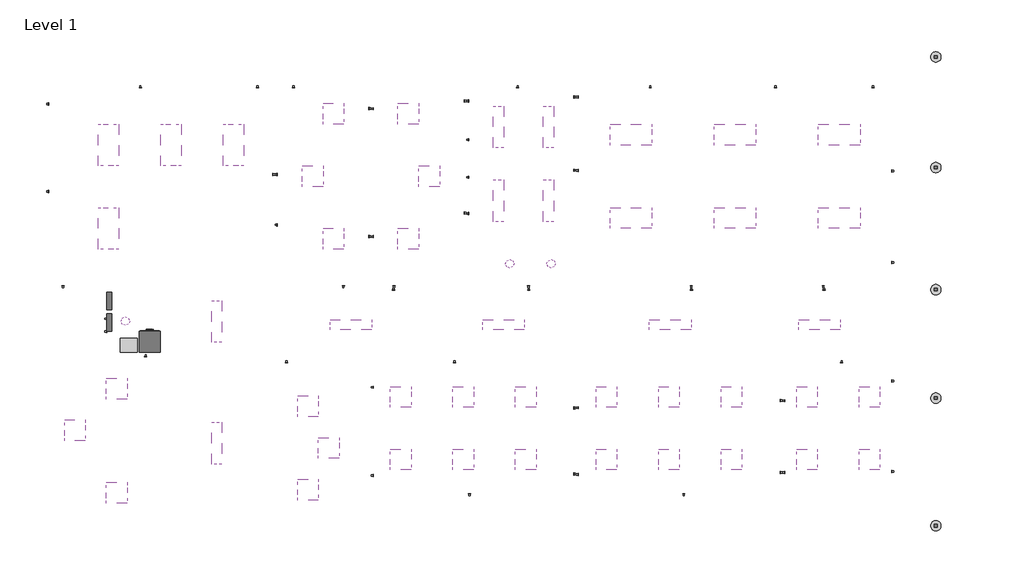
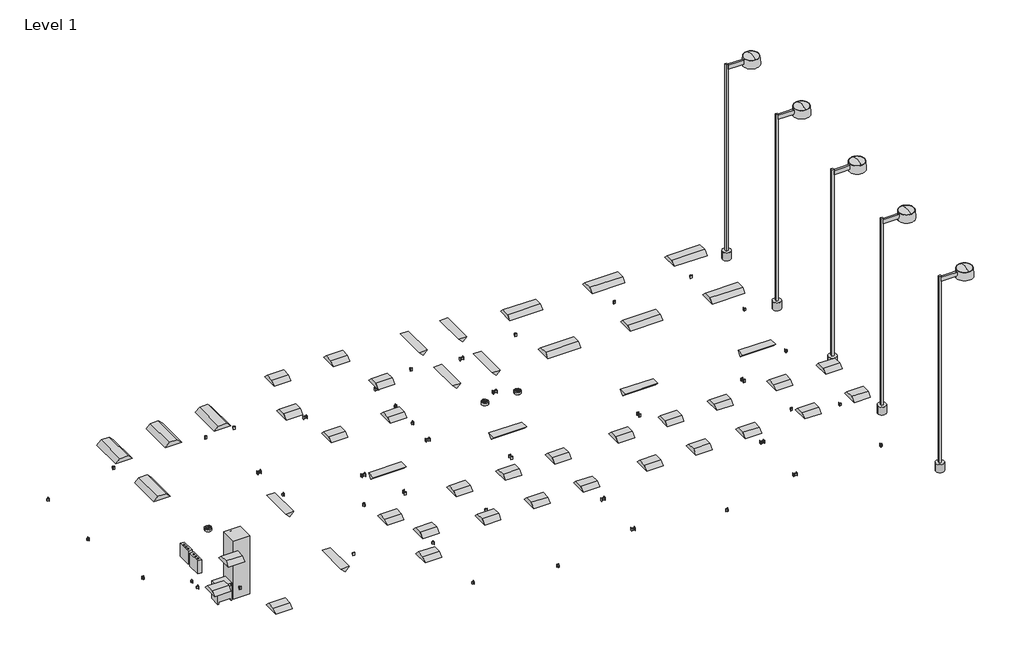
# One storey: 62 proxies, 56 light fixtures.
"""IFC4 building model written with IfcOpenShell, lengths in millimetres."""

from ifc_helpers import new_model, si_unit, origin, place, context, project, spatial, transform, mapped, element, save
from components import proxy_15_kva_b0f935c8, duplex_receptacle_standard_10251bba, lighting_and_appliance_panelboard_208v_100_a_7126e705, proxy_f2fcea41, ceiling_light_flat_round_60w_120v_a3c1fe64, plain_recessed_lighting_fixture_1x4_120_73690371, plain_recessed_lighting_fixture_2x2_120_2107ce2d, plain_recessed_lighting_fixture_2x4_120_d3d5fc87, street_light_standard_400w_halogen_120v_63d2c179

model = new_model("IFC4")

# Units and contexts
model_context = context("Model", 3, world=origin())
ifc_project = project(units=[si_unit("LENGTHUNIT", "METRE", prefix="MILLI")], contexts=[model_context])

# Site, building, storey
site = spatial("IfcSite", under=ifc_project)
building = spatial("IfcBuilding", under=site)
storey = spatial("IfcBuildingStorey", under=building, Name="Level 1", Elevation=0.0)

# Proxies
placement = place(None, origin())
proxy_15_kva_shape = proxy_15_kva_b0f935c8(model_context)
element("IfcBuildingElementProxy", 1, Name="Dry Type Transformer - 480-208Y120 - NEMA Type 2 : 15 kVA", ObjectType="Dry Type Transformer - 480-208Y120 - NEMA Type 2 : 15 kVA", at=placement, inside=storey, context=model_context, shape_type="MappedRepresentation", body=[
    mapped(proxy_15_kva_shape, transform((-9977.4200118, -1021.8173203, 0.0), x_axis=(-1.0, 0.0, 0.0), y_axis=(0.0, -1.0, 0.0), z_axis=(0.0, 0.0, 1.0))),
])
duplex_receptacle_standard_shape = duplex_receptacle_standard_10251bba(model_context)
element("IfcBuildingElementProxy", 2, Name="Duplex Receptacle : Standard", ObjectType="Duplex Receptacle : Standard", at=placement, inside=storey, context=model_context, shape_type="MappedRepresentation", body=[
    mapped(duplex_receptacle_standard_shape, transform((-35.6380103, 2648.1174507, 457.2), x_axis=(0.0, 1.0, 0.0), y_axis=(0.0, 0.0, 1.0), z_axis=(1.0, 0.0, 0.0))),
])
element("IfcBuildingElementProxy", 3, Name="Duplex Receptacle : Standard", ObjectType="Duplex Receptacle : Standard", at=placement, inside=storey, context=model_context, shape_type="MappedRepresentation", body=[
    mapped(duplex_receptacle_standard_shape, transform((-35.6380103, 3713.8918475, 457.2), x_axis=(0.0, 1.0, 0.0), y_axis=(0.0, 0.0, 1.0), z_axis=(1.0, 0.0, 0.0))),
])
element("IfcBuildingElementProxy", 4, Name="Duplex Receptacle : Standard", ObjectType="Duplex Receptacle : Standard", at=placement, inside=storey, context=model_context, shape_type="MappedRepresentation", body=[
    mapped(duplex_receptacle_standard_shape, transform((-35.6380103, 4811.7196097, 457.2), x_axis=(0.0, 1.0, 0.0), y_axis=(0.0, 0.0, 1.0), z_axis=(1.0, 0.0, 0.0))),
])
element("IfcBuildingElementProxy", 5, Name="Duplex Receptacle : Standard", ObjectType="Duplex Receptacle : Standard", at=placement, inside=storey, context=model_context, shape_type="MappedRepresentation", body=[
    mapped(duplex_receptacle_standard_shape, transform((-35.6380103, 5949.6140785, 457.2), x_axis=(0.0, 1.0, 0.0), y_axis=(0.0, 0.0, 1.0), z_axis=(1.0, 0.0, 0.0))),
])
element("IfcBuildingElementProxy", 6, Name="Duplex Receptacle : Standard", ObjectType="Duplex Receptacle : Standard", at=placement, inside=storey, context=model_context, shape_type="MappedRepresentation", body=[
    mapped(duplex_receptacle_standard_shape, transform((3054.9541807, 6058.3078836, 457.2), x_axis=(0.0, -1.0, 0.0), y_axis=(0.0, 0.0, 1.0), z_axis=(-1.0, 0.0, 0.0))),
])
element("IfcBuildingElementProxy", 7, Name="Duplex Receptacle : Standard", ObjectType="Duplex Receptacle : Standard", at=placement, inside=storey, context=model_context, shape_type="MappedRepresentation", body=[
    mapped(duplex_receptacle_standard_shape, transform((3054.9541807, 3918.7457486, 457.2), x_axis=(0.0, -1.0, 0.0), y_axis=(0.0, 0.0, 1.0), z_axis=(-1.0, 0.0, 0.0))),
])
element("IfcBuildingElementProxy", 8, Name="Duplex Receptacle : Standard", ObjectType="Duplex Receptacle : Standard", at=placement, inside=storey, context=model_context, shape_type="MappedRepresentation", body=[
    mapped(duplex_receptacle_standard_shape, transform((1404.1361978, 6330.7167452, 457.2), x_axis=(1.0, 0.0, 0.0), y_axis=(0.0, 0.0, 1.0), z_axis=(0.0, -1.0, 0.0))),
])
element("IfcBuildingElementProxy", 9, Name="Duplex Receptacle : Standard", ObjectType="Duplex Receptacle : Standard", at=placement, inside=storey, context=model_context, shape_type="MappedRepresentation", body=[
    mapped(duplex_receptacle_standard_shape, transform((-11896.9375423, 539.3362982, 457.2), x_axis=(-1.0, 0.0, 0.0), y_axis=(0.0, 0.0, 1.0), z_axis=(0.0, 1.0, 0.0))),
])
element("IfcBuildingElementProxy", 10, Name="Duplex Receptacle : Standard", ObjectType="Duplex Receptacle : Standard", at=placement, inside=storey, context=model_context, shape_type="MappedRepresentation", body=[
    mapped(duplex_receptacle_standard_shape, transform((-12326.8965226, 3293.728876, 457.2), x_axis=(0.0, 1.0, 0.0), y_axis=(0.0, 0.0, 1.0), z_axis=(1.0, 0.0, 0.0))),
])
element("IfcBuildingElementProxy", 11, Name="Duplex Receptacle : Standard", ObjectType="Duplex Receptacle : Standard", at=placement, inside=storey, context=model_context, shape_type="MappedRepresentation", body=[
    mapped(duplex_receptacle_standard_shape, transform((-12326.8965226, 5855.4034771, 457.2), x_axis=(0.0, 1.0, 0.0), y_axis=(0.0, 0.0, 1.0), z_axis=(1.0, 0.0, 0.0))),
])
element("IfcBuildingElementProxy", 12, Name="Duplex Receptacle : Standard", ObjectType="Duplex Receptacle : Standard", at=placement, inside=storey, context=model_context, shape_type="MappedRepresentation", body=[
    mapped(duplex_receptacle_standard_shape, transform((-9637.0519321, 6330.7167452, 457.2), x_axis=(1.0, 0.0, 0.0), y_axis=(0.0, 0.0, 1.0), z_axis=(0.0, -1.0, 0.0))),
])
element("IfcBuildingElementProxy", 13, Name="Duplex Receptacle : Standard", ObjectType="Duplex Receptacle : Standard", at=placement, inside=storey, context=model_context, shape_type="MappedRepresentation", body=[
    mapped(duplex_receptacle_standard_shape, transform((-6212.0214597, 6330.7167452, 457.2), x_axis=(1.0, 0.0, 0.0), y_axis=(0.0, 0.0, 1.0), z_axis=(0.0, -1.0, 0.0))),
])
element("IfcBuildingElementProxy", 14, Name="Duplex Receptacle : Standard", ObjectType="Duplex Receptacle : Standard", at=placement, inside=storey, context=model_context, shape_type="MappedRepresentation", body=[
    mapped(duplex_receptacle_standard_shape, transform((-5761.7329716, 3793.1487614, 457.2), x_axis=(0.0, -1.0, 0.0), y_axis=(0.0, 0.0, 1.0), z_axis=(-1.0, 0.0, 0.0))),
])
element("IfcBuildingElementProxy", 15, Name="Duplex Receptacle : Standard", ObjectType="Duplex Receptacle : Standard", at=placement, inside=storey, context=model_context, shape_type="MappedRepresentation", body=[
    mapped(duplex_receptacle_standard_shape, transform((-3696.8781677, 539.3362982, 457.2), x_axis=(-1.0, 0.0, 0.0), y_axis=(0.0, 0.0, 1.0), z_axis=(0.0, 1.0, 0.0))),
])
element("IfcBuildingElementProxy", 16, Name="Duplex Receptacle : Standard", ObjectType="Duplex Receptacle : Standard", at=placement, inside=storey, context=model_context, shape_type="MappedRepresentation", body=[
    mapped(duplex_receptacle_standard_shape, transform((-2943.0314516, 1977.435622, 457.2), x_axis=(0.0, -1.0, 0.0), y_axis=(0.0, 0.0, 1.0), z_axis=(-1.0, 0.0, 0.0))),
])
element("IfcBuildingElementProxy", 17, Name="Duplex Receptacle : Standard", ObjectType="Duplex Receptacle : Standard", at=placement, inside=storey, context=model_context, shape_type="MappedRepresentation", body=[
    mapped(duplex_receptacle_standard_shape, transform((-2943.0314516, 5727.6793643, 457.2), x_axis=(0.0, -1.0, 0.0), y_axis=(0.0, 0.0, 1.0), z_axis=(-1.0, 0.0, 0.0))),
])
element("IfcBuildingElementProxy", 18, Name="Duplex Receptacle : Standard", ObjectType="Duplex Receptacle : Standard", at=placement, inside=storey, context=model_context, shape_type="MappedRepresentation", body=[
    mapped(duplex_receptacle_standard_shape, transform((-5155.3062897, 6330.7167452, 457.2), x_axis=(1.0, 0.0, 0.0), y_axis=(0.0, 0.0, 1.0), z_axis=(0.0, -1.0, 0.0))),
])
element("IfcBuildingElementProxy", 19, Name="Duplex Receptacle : Standard", ObjectType="Duplex Receptacle : Standard", at=placement, inside=storey, context=model_context, shape_type="MappedRepresentation", body=[
    mapped(duplex_receptacle_standard_shape, transform((-5637.9079716, 3796.4641038, 457.2), x_axis=(0.0, 1.0, 0.0), y_axis=(0.0, 0.0, 1.0), z_axis=(1.0, 0.0, 0.0))),
])
element("IfcBuildingElementProxy", 20, Name="Duplex Receptacle : Standard", ObjectType="Duplex Receptacle : Standard", at=placement, inside=storey, context=model_context, shape_type="MappedRepresentation", body=[
    mapped(duplex_receptacle_standard_shape, transform((-5637.9079716, 2322.0092992, 457.2), x_axis=(0.0, 1.0, 0.0), y_axis=(0.0, 0.0, 1.0), z_axis=(1.0, 0.0, 0.0))),
])
element("IfcBuildingElementProxy", 21, Name="Duplex Receptacle : Standard", ObjectType="Duplex Receptacle : Standard", at=placement, inside=storey, context=model_context, shape_type="MappedRepresentation", body=[
    mapped(duplex_receptacle_standard_shape, transform((-2819.2064516, 5717.2271799, 457.2), x_axis=(0.0, 1.0, 0.0), y_axis=(0.0, 0.0, 1.0), z_axis=(1.0, 0.0, 0.0))),
])
element("IfcBuildingElementProxy", 22, Name="Duplex Receptacle : Standard", ObjectType="Duplex Receptacle : Standard", at=placement, inside=storey, context=model_context, shape_type="MappedRepresentation", body=[
    mapped(duplex_receptacle_standard_shape, transform((-2819.2064516, 1974.996779, 457.2), x_axis=(0.0, 1.0, 0.0), y_axis=(0.0, 0.0, 1.0), z_axis=(1.0, 0.0, 0.0))),
])
element("IfcBuildingElementProxy", 23, Name="Duplex Receptacle : Standard", ObjectType="Duplex Receptacle : Standard", at=placement, inside=storey, context=model_context, shape_type="MappedRepresentation", body=[
    mapped(duplex_receptacle_standard_shape, transform((-2217.8940832, 539.3362982, 457.2), x_axis=(-1.0, 0.0, 0.0), y_axis=(0.0, 0.0, 1.0), z_axis=(0.0, 1.0, 0.0))),
])
element("IfcBuildingElementProxy", 24, Name="Duplex Receptacle : Standard", ObjectType="Duplex Receptacle : Standard", at=placement, inside=storey, context=model_context, shape_type="MappedRepresentation", body=[
    mapped(duplex_receptacle_standard_shape, transform((-159.4630103, 5949.6140785, 457.2), x_axis=(0.0, -1.0, 0.0), y_axis=(0.0, 0.0, 1.0), z_axis=(-1.0, 0.0, 0.0))),
])
element("IfcBuildingElementProxy", 25, Name="Duplex Receptacle : Standard", ObjectType="Duplex Receptacle : Standard", at=placement, inside=storey, context=model_context, shape_type="MappedRepresentation", body=[
    mapped(duplex_receptacle_standard_shape, transform((-159.4630103, 2664.1441333, 457.2), x_axis=(0.0, -1.0, 0.0), y_axis=(0.0, 0.0, 1.0), z_axis=(-1.0, 0.0, 0.0))),
])
element("IfcBuildingElementProxy", 26, Name="Duplex Receptacle : Standard", ObjectType="Duplex Receptacle : Standard", at=placement, inside=storey, context=model_context, shape_type="MappedRepresentation", body=[
    mapped(duplex_receptacle_standard_shape, transform((3178.7791807, 3910.7324072, 457.2), x_axis=(0.0, 1.0, 0.0), y_axis=(0.0, 0.0, 1.0), z_axis=(1.0, 0.0, 0.0))),
])
element("IfcBuildingElementProxy", 27, Name="Duplex Receptacle : Standard", ObjectType="Duplex Receptacle : Standard", at=placement, inside=storey, context=model_context, shape_type="MappedRepresentation", body=[
    mapped(duplex_receptacle_standard_shape, transform((3178.7791807, 6058.3078836, 457.2), x_axis=(0.0, 1.0, 0.0), y_axis=(0.0, 0.0, 1.0), z_axis=(1.0, 0.0, 0.0))),
])
element("IfcBuildingElementProxy", 28, Name="Duplex Receptacle : Standard", ObjectType="Duplex Receptacle : Standard", at=placement, inside=storey, context=model_context, shape_type="MappedRepresentation", body=[
    mapped(duplex_receptacle_standard_shape, transform((5282.5934014, 6330.7167452, 457.2), x_axis=(1.0, 0.0, 0.0), y_axis=(0.0, 0.0, 1.0), z_axis=(0.0, -1.0, 0.0))),
])
element("IfcBuildingElementProxy", 29, Name="Duplex Receptacle : Standard", ObjectType="Duplex Receptacle : Standard", at=placement, inside=storey, context=model_context, shape_type="MappedRepresentation", body=[
    mapped(duplex_receptacle_standard_shape, transform((8952.7037304, 6330.7167452, 457.2), x_axis=(1.0, 0.0, 0.0), y_axis=(0.0, 0.0, 1.0), z_axis=(0.0, -1.0, 0.0))),
])
element("IfcBuildingElementProxy", 30, Name="Duplex Receptacle : Standard", ObjectType="Duplex Receptacle : Standard", at=placement, inside=storey, context=model_context, shape_type="MappedRepresentation", body=[
    mapped(duplex_receptacle_standard_shape, transform((11805.4532437, 6330.7167452, 457.2), x_axis=(1.0, 0.0, 0.0), y_axis=(0.0, 0.0, 1.0), z_axis=(0.0, -1.0, 0.0))),
])
element("IfcBuildingElementProxy", 31, Name="Duplex Receptacle : Standard", ObjectType="Duplex Receptacle : Standard", at=placement, inside=storey, context=model_context, shape_type="MappedRepresentation", body=[
    mapped(duplex_receptacle_standard_shape, transform((12355.5534774, 3898.1986981, 457.2), x_axis=(0.0, -1.0, 0.0), y_axis=(0.0, 0.0, 1.0), z_axis=(-1.0, 0.0, 0.0))),
])
element("IfcBuildingElementProxy", 32, Name="Duplex Receptacle : Standard", ObjectType="Duplex Receptacle : Standard", at=placement, inside=storey, context=model_context, shape_type="MappedRepresentation", body=[
    mapped(duplex_receptacle_standard_shape, transform((12355.5534774, 1221.742694, 457.2), x_axis=(0.0, -1.0, 0.0), y_axis=(0.0, 0.0, 1.0), z_axis=(-1.0, 0.0, 0.0))),
])
element("IfcBuildingElementProxy", 33, Name="Duplex Receptacle : Standard", ObjectType="Duplex Receptacle : Standard", at=placement, inside=storey, context=model_context, shape_type="MappedRepresentation", body=[
    mapped(duplex_receptacle_standard_shape, transform((10347.0251217, 539.3362982, 457.2), x_axis=(-1.0, 0.0, 0.0), y_axis=(0.0, 0.0, 1.0), z_axis=(0.0, 1.0, 0.0))),
])
element("IfcBuildingElementProxy", 34, Name="Duplex Receptacle : Standard", ObjectType="Duplex Receptacle : Standard", at=placement, inside=storey, context=model_context, shape_type="MappedRepresentation", body=[
    mapped(duplex_receptacle_standard_shape, transform((6484.5946008, 539.3362982, 457.2), x_axis=(-1.0, 0.0, 0.0), y_axis=(0.0, 0.0, 1.0), z_axis=(0.0, 1.0, 0.0))),
])
element("IfcBuildingElementProxy", 35, Name="Duplex Receptacle : Standard", ObjectType="Duplex Receptacle : Standard", at=placement, inside=storey, context=model_context, shape_type="MappedRepresentation", body=[
    mapped(duplex_receptacle_standard_shape, transform((10364.3439331, 415.5112982, 457.2), x_axis=(1.0, 0.0, 0.0), y_axis=(0.0, 0.0, 1.0), z_axis=(0.0, -1.0, 0.0))),
])
element("IfcBuildingElementProxy", 36, Name="Duplex Receptacle : Standard", ObjectType="Duplex Receptacle : Standard", at=placement, inside=storey, context=model_context, shape_type="MappedRepresentation", body=[
    mapped(duplex_receptacle_standard_shape, transform((6485.6062626, 415.5112982, 457.2), x_axis=(1.0, 0.0, 0.0), y_axis=(0.0, 0.0, 1.0), z_axis=(0.0, -1.0, 0.0))),
])
element("IfcBuildingElementProxy", 37, Name="Duplex Receptacle : Standard", ObjectType="Duplex Receptacle : Standard", at=placement, inside=storey, context=model_context, shape_type="MappedRepresentation", body=[
    mapped(duplex_receptacle_standard_shape, transform((1727.2641477, 415.5112982, 457.2), x_axis=(1.0, 0.0, 0.0), y_axis=(0.0, 0.0, 1.0), z_axis=(0.0, -1.0, 0.0))),
])
element("IfcBuildingElementProxy", 38, Name="Duplex Receptacle : Standard", ObjectType="Duplex Receptacle : Standard", at=placement, inside=storey, context=model_context, shape_type="MappedRepresentation", body=[
    mapped(duplex_receptacle_standard_shape, transform((1724.669851, 539.3362982, 457.2), x_axis=(-1.0, 0.0, 0.0), y_axis=(0.0, 0.0, 1.0), z_axis=(0.0, 1.0, 0.0))),
])
element("IfcBuildingElementProxy", 39, Name="Duplex Receptacle : Standard", ObjectType="Duplex Receptacle : Standard", at=placement, inside=storey, context=model_context, shape_type="MappedRepresentation", body=[
    mapped(duplex_receptacle_standard_shape, transform((-2225.6570301, 415.5112982, 457.2), x_axis=(1.0, 0.0, 0.0), y_axis=(0.0, 0.0, 1.0), z_axis=(0.0, -1.0, 0.0))),
])
element("IfcBuildingElementProxy", 40, Name="Duplex Receptacle : Standard", ObjectType="Duplex Receptacle : Standard", at=placement, inside=storey, context=model_context, shape_type="MappedRepresentation", body=[
    mapped(duplex_receptacle_standard_shape, transform((10884.0330798, -1710.3119449, 457.2), x_axis=(1.0, 0.0, 0.0), y_axis=(0.0, 0.0, 1.0), z_axis=(0.0, -1.0, 0.0))),
])
element("IfcBuildingElementProxy", 41, Name="Duplex Receptacle : Standard", ObjectType="Duplex Receptacle : Standard", at=placement, inside=storey, context=model_context, shape_type="MappedRepresentation", body=[
    mapped(duplex_receptacle_standard_shape, transform((12355.5534774, -2243.543179, 457.2), x_axis=(0.0, -1.0, 0.0), y_axis=(0.0, 0.0, 1.0), z_axis=(-1.0, 0.0, 0.0))),
])
element("IfcBuildingElementProxy", 42, Name="Duplex Receptacle : Standard", ObjectType="Duplex Receptacle : Standard", at=placement, inside=storey, context=model_context, shape_type="MappedRepresentation", body=[
    mapped(duplex_receptacle_standard_shape, transform((12355.5534774, -4891.4298793, 457.2), x_axis=(0.0, -1.0, 0.0), y_axis=(0.0, 0.0, 1.0), z_axis=(-1.0, 0.0, 0.0))),
])
element("IfcBuildingElementProxy", 43, Name="Duplex Receptacle : Standard", ObjectType="Duplex Receptacle : Standard", at=placement, inside=storey, context=model_context, shape_type="MappedRepresentation", body=[
    mapped(duplex_receptacle_standard_shape, transform((9215.7608002, -4927.7853031, 457.2), x_axis=(0.0, 1.0, 0.0), y_axis=(0.0, 0.0, 1.0), z_axis=(1.0, 0.0, 0.0))),
])
element("IfcBuildingElementProxy", 44, Name="Duplex Receptacle : Standard", ObjectType="Duplex Receptacle : Standard", at=placement, inside=storey, context=model_context, shape_type="MappedRepresentation", body=[
    mapped(duplex_receptacle_standard_shape, transform((9215.7608002, -2825.2299599, 457.2), x_axis=(0.0, 1.0, 0.0), y_axis=(0.0, 0.0, 1.0), z_axis=(1.0, 0.0, 0.0))),
])
element("IfcBuildingElementProxy", 45, Name="Duplex Receptacle : Standard", ObjectType="Duplex Receptacle : Standard", at=placement, inside=storey, context=model_context, shape_type="MappedRepresentation", body=[
    mapped(duplex_receptacle_standard_shape, transform((9091.9358002, -2822.2003412, 457.2), x_axis=(0.0, -1.0, 0.0), y_axis=(0.0, 0.0, 1.0), z_axis=(-1.0, 0.0, 0.0))),
])
element("IfcBuildingElementProxy", 46, Name="Duplex Receptacle : Standard", ObjectType="Duplex Receptacle : Standard", at=placement, inside=storey, context=model_context, shape_type="MappedRepresentation", body=[
    mapped(duplex_receptacle_standard_shape, transform((9091.9358002, -4926.5734556, 457.2), x_axis=(0.0, -1.0, 0.0), y_axis=(0.0, 0.0, 1.0), z_axis=(-1.0, 0.0, 0.0))),
])
element("IfcBuildingElementProxy", 47, Name="Duplex Receptacle : Standard", ObjectType="Duplex Receptacle : Standard", at=placement, inside=storey, context=model_context, shape_type="MappedRepresentation", body=[
    mapped(duplex_receptacle_standard_shape, transform((6264.7735239, -5550.1332548, 457.2), x_axis=(-1.0, 0.0, 0.0), y_axis=(0.0, 0.0, 1.0), z_axis=(0.0, 1.0, 0.0))),
])
element("IfcBuildingElementProxy", 48, Name="Duplex Receptacle : Standard", ObjectType="Duplex Receptacle : Standard", at=placement, inside=storey, context=model_context, shape_type="MappedRepresentation", body=[
    mapped(duplex_receptacle_standard_shape, transform((3178.7791807, -4982.3184388, 457.2), x_axis=(0.0, 1.0, 0.0), y_axis=(0.0, 0.0, 1.0), z_axis=(1.0, 0.0, 0.0))),
])
element("IfcBuildingElementProxy", 49, Name="Duplex Receptacle : Standard", ObjectType="Duplex Receptacle : Standard", at=placement, inside=storey, context=model_context, shape_type="MappedRepresentation", body=[
    mapped(duplex_receptacle_standard_shape, transform((3178.7791807, -3031.2440281, 457.2), x_axis=(0.0, 1.0, 0.0), y_axis=(0.0, 0.0, 1.0), z_axis=(1.0, 0.0, 0.0))),
])
element("IfcBuildingElementProxy", 50, Name="Duplex Receptacle : Standard", ObjectType="Duplex Receptacle : Standard", at=placement, inside=storey, context=model_context, shape_type="MappedRepresentation", body=[
    mapped(duplex_receptacle_standard_shape, transform((3054.9541807, -3040.6605751, 457.2), x_axis=(0.0, -1.0, 0.0), y_axis=(0.0, 0.0, 1.0), z_axis=(-1.0, 0.0, 0.0))),
])
element("IfcBuildingElementProxy", 51, Name="Duplex Receptacle : Standard", ObjectType="Duplex Receptacle : Standard", at=placement, inside=storey, context=model_context, shape_type="MappedRepresentation", body=[
    mapped(duplex_receptacle_standard_shape, transform((3054.9541807, -4971.8758356, 457.2), x_axis=(0.0, -1.0, 0.0), y_axis=(0.0, 0.0, 1.0), z_axis=(-1.0, 0.0, 0.0))),
])
element("IfcBuildingElementProxy", 52, Name="Duplex Receptacle : Standard", ObjectType="Duplex Receptacle : Standard", at=placement, inside=storey, context=model_context, shape_type="MappedRepresentation", body=[
    mapped(duplex_receptacle_standard_shape, transform((-2819.2064516, -5011.9425422, 457.2), x_axis=(0.0, 1.0, 0.0), y_axis=(0.0, 0.0, 1.0), z_axis=(1.0, 0.0, 0.0))),
])
element("IfcBuildingElementProxy", 53, Name="Duplex Receptacle : Standard", ObjectType="Duplex Receptacle : Standard", at=placement, inside=storey, context=model_context, shape_type="MappedRepresentation", body=[
    mapped(duplex_receptacle_standard_shape, transform((-2819.2064516, -2431.6466341, 457.2), x_axis=(0.0, 1.0, 0.0), y_axis=(0.0, 0.0, 1.0), z_axis=(1.0, 0.0, 0.0))),
])
element("IfcBuildingElementProxy", 54, Name="Duplex Receptacle : Standard", ObjectType="Duplex Receptacle : Standard", at=placement, inside=storey, context=model_context, shape_type="MappedRepresentation", body=[
    mapped(duplex_receptacle_standard_shape, transform((-443.3364786, -1710.3119449, 457.2), x_axis=(1.0, 0.0, 0.0), y_axis=(0.0, 0.0, 1.0), z_axis=(0.0, -1.0, 0.0))),
])
element("IfcBuildingElementProxy", 55, Name="Duplex Receptacle : Standard", ObjectType="Duplex Receptacle : Standard", at=placement, inside=storey, context=model_context, shape_type="MappedRepresentation", body=[
    mapped(duplex_receptacle_standard_shape, transform((-2.6027055, -5550.1332548, 457.2), x_axis=(-1.0, 0.0, 0.0), y_axis=(0.0, 0.0, 1.0), z_axis=(0.0, 1.0, 0.0))),
])
element("IfcBuildingElementProxy", 56, Name="Duplex Receptacle : Standard", ObjectType="Duplex Receptacle : Standard", at=placement, inside=storey, context=model_context, shape_type="MappedRepresentation", body=[
    mapped(duplex_receptacle_standard_shape, transform((-5361.484653, -1710.3119449, 457.2), x_axis=(1.0, 0.0, 0.0), y_axis=(0.0, 0.0, 1.0), z_axis=(0.0, -1.0, 0.0))),
])
element("IfcBuildingElementProxy", 57, Name="Duplex Receptacle : Standard", ObjectType="Duplex Receptacle : Standard", at=placement, inside=storey, context=model_context, shape_type="MappedRepresentation", body=[
    mapped(duplex_receptacle_standard_shape, transform((-9480.7427635, -1530.7127622, 457.2), x_axis=(1.0, 0.0, 0.0), y_axis=(0.0, 0.0, 1.0), z_axis=(0.0, -1.0, 0.0))),
])
element("IfcBuildingElementProxy", 58, Name="Duplex Receptacle : Standard", ObjectType="Duplex Receptacle : Standard", at=placement, inside=storey, context=model_context, shape_type="MappedRepresentation", body=[
    mapped(duplex_receptacle_standard_shape, transform((-10618.9849987, -802.683715, 457.2), x_axis=(0.0, 1.0, 0.0), y_axis=(0.0, 0.0, 1.0), z_axis=(1.0, 0.0, 0.0))),
])
element("IfcBuildingElementProxy", 59, Name="Duplex Receptacle : Standard", ObjectType="Duplex Receptacle : Standard", at=placement, inside=storey, context=model_context, shape_type="MappedRepresentation", body=[
    mapped(duplex_receptacle_standard_shape, transform((-10618.9849987, -428.1176265, 457.2), x_axis=(0.0, 1.0, 0.0), y_axis=(0.0, 0.0, 1.0), z_axis=(1.0, 0.0, 0.0))),
])
lighting_and_appliance_panelboard_208v_100_a_shape = lighting_and_appliance_panelboard_208v_100_a_7126e705(model_context)
element("IfcBuildingElementProxy", 60, Name="Lighting and Appliance Panelboard - 208V : 100 A", ObjectType="Lighting and Appliance Panelboard - 208V : 100 A", at=placement, inside=storey, context=model_context, shape_type="MappedRepresentation", body=[
    mapped(lighting_and_appliance_panelboard_208v_100_a_shape, transform((-10618.9849987, -535.3199563, 1219.2), x_axis=(0.0, 1.0, 0.0), y_axis=(0.0, 0.0, -1.0), z_axis=(-1.0, 0.0, 0.0))),
])
element("IfcBuildingElementProxy", 61, Name="Lighting and Appliance Panelboard - 208V : 100 A", ObjectType="Lighting and Appliance Panelboard - 208V : 100 A", at=placement, inside=storey, context=model_context, shape_type="MappedRepresentation", body=[
    mapped(lighting_and_appliance_panelboard_208v_100_a_shape, transform((-10618.9849987, 91.1493498, 1219.2), x_axis=(0.0, 1.0, 0.0), y_axis=(0.0, 0.0, -1.0), z_axis=(-1.0, 0.0, 0.0))),
])
proxy_shape = proxy_f2fcea41(model_context)
element("IfcBuildingElementProxy", 62, Name="Metering Switchboard : 24\"x26.25\"", ObjectType="Metering Switchboard : 24\"x26.25\"", at=placement, inside=storey, context=model_context, shape_type="MappedRepresentation", body=[
    mapped(proxy_shape, transform((-9356.388949, -1404.6099297, 0.0), x_axis=(-1.0, 0.0, 0.0), y_axis=(0.0, -1.0, 0.0), z_axis=(0.0, 0.0, 1.0))),
])

# Light fixtures
ceiling_light_flat_round_60w_120v_shape = ceiling_light_flat_round_60w_120v_a3c1fe64(model_context)
element("IfcLightFixture", 63, ObjectType="Ceiling Light - Flat Round : 60W - 120V", at=placement, inside=storey, context=model_context, shape_type="MappedRepresentation", body=[
    mapped(ceiling_light_flat_round_60w_120v_shape, transform((2383.8661295, 1183.5273163, 2438.4), x_axis=(1.0, 0.0, 0.0), y_axis=(0.0, -1.0, 0.0), z_axis=(0.0, 0.0, -1.0))),
])
element("IfcLightFixture", 64, ObjectType="Ceiling Light - Flat Round : 60W - 120V", at=placement, inside=storey, context=model_context, shape_type="MappedRepresentation", body=[
    mapped(ceiling_light_flat_round_60w_120v_shape, transform((1173.2843647, 1183.5273163, 2438.4), x_axis=(1.0, 0.0, 0.0), y_axis=(0.0, -1.0, 0.0), z_axis=(0.0, 0.0, -1.0))),
])
element("IfcLightFixture", 65, ObjectType="Ceiling Light - Flat Round : 60W - 120V", at=placement, inside=storey, context=model_context, shape_type="MappedRepresentation", body=[
    mapped(ceiling_light_flat_round_60w_120v_shape, transform((-10072.8185222, -495.688232, 2438.4), x_axis=(1.0, 0.0, 0.0), y_axis=(0.0, -1.0, 0.0), z_axis=(0.0, 0.0, -1.0))),
])
plain_recessed_lighting_fixture_1x4_120_shape = plain_recessed_lighting_fixture_1x4_120_73690371(model_context)
element("IfcLightFixture", 66, ObjectType="Plain Recessed Lighting Fixture : 1x4 - 120", at=placement, inside=storey, context=model_context, shape_type="MappedRepresentation", body=[
    mapped(plain_recessed_lighting_fixture_1x4_120_shape, transform((-4086.8396974, -448.5225822, 2438.4), x_axis=(1.0, 0.0, 0.0), y_axis=(0.0, 1.0, 0.0), z_axis=(0.0, 0.0, 1.0))),
])
element("IfcLightFixture", 67, ObjectType="Plain Recessed Lighting Fixture : 1x4 - 120", at=placement, inside=storey, context=model_context, shape_type="MappedRepresentation", body=[
    mapped(plain_recessed_lighting_fixture_1x4_120_shape, transform((383.5603026, -448.5225822, 2438.4), x_axis=(1.0, 0.0, 0.0), y_axis=(0.0, 1.0, 0.0), z_axis=(0.0, 0.0, 1.0))),
])
element("IfcLightFixture", 68, ObjectType="Plain Recessed Lighting Fixture : 1x4 - 120", at=placement, inside=storey, context=model_context, shape_type="MappedRepresentation", body=[
    mapped(plain_recessed_lighting_fixture_1x4_120_shape, transform((5260.3603026, -448.5225822, 2438.4), x_axis=(1.0, 0.0, 0.0), y_axis=(0.0, 1.0, 0.0), z_axis=(0.0, 0.0, 1.0))),
])
element("IfcLightFixture", 69, ObjectType="Plain Recessed Lighting Fixture : 1x4 - 120", at=placement, inside=storey, context=model_context, shape_type="MappedRepresentation", body=[
    mapped(plain_recessed_lighting_fixture_1x4_120_shape, transform((9629.1603026, -448.5225822, 2438.4), x_axis=(1.0, 0.0, 0.0), y_axis=(0.0, 1.0, 0.0), z_axis=(0.0, 0.0, 1.0))),
])
element("IfcLightFixture", 70, ObjectType="Plain Recessed Lighting Fixture : 1x4 - 120", at=placement, inside=storey, context=model_context, shape_type="MappedRepresentation", body=[
    mapped(plain_recessed_lighting_fixture_1x4_120_shape, transform((-7553.1170415, -1121.3482269, 2438.4), x_axis=(0.0, 1.0, 0.0), y_axis=(-1.0, 0.0, 0.0), z_axis=(0.0, 0.0, 1.0))),
])
element("IfcLightFixture", 71, ObjectType="Plain Recessed Lighting Fixture : 1x4 - 120", at=placement, inside=storey, context=model_context, shape_type="MappedRepresentation", body=[
    mapped(plain_recessed_lighting_fixture_1x4_120_shape, transform((-7553.1170415, -4680.447715, 2438.4), x_axis=(0.0, 1.0, 0.0), y_axis=(-1.0, 0.0, 0.0), z_axis=(0.0, 0.0, 1.0))),
])
element("IfcLightFixture", 72, ObjectType="Plain Recessed Lighting Fixture : 1x4 - 120", at=placement, inside=storey, context=model_context, shape_type="MappedRepresentation", body=[
    mapped(plain_recessed_lighting_fixture_1x4_120_shape, transform((690.4888321, 4574.6175062, 2438.4), x_axis=(0.0, 1.0, 0.0), y_axis=(-1.0, 0.0, 0.0), z_axis=(0.0, 0.0, 1.0))),
])
element("IfcLightFixture", 73, ObjectType="Plain Recessed Lighting Fixture : 1x4 - 120", at=placement, inside=storey, context=model_context, shape_type="MappedRepresentation", body=[
    mapped(plain_recessed_lighting_fixture_1x4_120_shape, transform((2158.6173709, 4574.6175062, 2438.4), x_axis=(0.0, 1.0, 0.0), y_axis=(-1.0, 0.0, 0.0), z_axis=(0.0, 0.0, 1.0))),
])
element("IfcLightFixture", 74, ObjectType="Plain Recessed Lighting Fixture : 1x4 - 120", at=placement, inside=storey, context=model_context, shape_type="MappedRepresentation", body=[
    mapped(plain_recessed_lighting_fixture_1x4_120_shape, transform((2158.6173709, 2416.9134415, 2438.4), x_axis=(0.0, 1.0, 0.0), y_axis=(-1.0, 0.0, 0.0), z_axis=(0.0, 0.0, 1.0))),
])
element("IfcLightFixture", 75, ObjectType="Plain Recessed Lighting Fixture : 1x4 - 120", at=placement, inside=storey, context=model_context, shape_type="MappedRepresentation", body=[
    mapped(plain_recessed_lighting_fixture_1x4_120_shape, transform((690.4888321, 2416.9134415, 2438.4), x_axis=(0.0, 1.0, 0.0), y_axis=(-1.0, 0.0, 0.0), z_axis=(0.0, 0.0, 1.0))),
])
plain_recessed_lighting_fixture_2x2_120_shape = plain_recessed_lighting_fixture_2x2_120_2107ce2d(model_context)
element("IfcLightFixture", 76, ObjectType="Plain Recessed Lighting Fixture : 2x2 - 120", at=placement, inside=storey, context=model_context, shape_type="MappedRepresentation", body=[
    mapped(plain_recessed_lighting_fixture_2x2_120_shape, transform((-2320.5261355, -3020.6225998, 2438.4), x_axis=(1.0, 0.0, 0.0), y_axis=(0.0, -1.0, 0.0), z_axis=(0.0, 0.0, -1.0))),
])
element("IfcLightFixture", 77, ObjectType="Plain Recessed Lighting Fixture : 2x2 - 120", at=placement, inside=storey, context=model_context, shape_type="MappedRepresentation", body=[
    mapped(plain_recessed_lighting_fixture_2x2_120_shape, transform((-2320.5261355, -4849.4225998, 2438.4), x_axis=(1.0, 0.0, 0.0), y_axis=(0.0, -1.0, 0.0), z_axis=(0.0, 0.0, -1.0))),
])
element("IfcLightFixture", 78, ObjectType="Plain Recessed Lighting Fixture : 2x2 - 120", at=placement, inside=storey, context=model_context, shape_type="MappedRepresentation", body=[
    mapped(plain_recessed_lighting_fixture_2x2_120_shape, transform((-491.7261355, -3020.6225998, 2438.4), x_axis=(1.0, 0.0, 0.0), y_axis=(0.0, -1.0, 0.0), z_axis=(0.0, 0.0, -1.0))),
])
element("IfcLightFixture", 79, ObjectType="Plain Recessed Lighting Fixture : 2x2 - 120", at=placement, inside=storey, context=model_context, shape_type="MappedRepresentation", body=[
    mapped(plain_recessed_lighting_fixture_2x2_120_shape, transform((-491.7261355, -4849.4225998, 2438.4), x_axis=(1.0, 0.0, 0.0), y_axis=(0.0, -1.0, 0.0), z_axis=(0.0, 0.0, -1.0))),
])
element("IfcLightFixture", 80, ObjectType="Plain Recessed Lighting Fixture : 2x2 - 120", at=placement, inside=storey, context=model_context, shape_type="MappedRepresentation", body=[
    mapped(plain_recessed_lighting_fixture_2x2_120_shape, transform((1337.0738645, -3020.6225998, 2438.4), x_axis=(1.0, 0.0, 0.0), y_axis=(0.0, -1.0, 0.0), z_axis=(0.0, 0.0, -1.0))),
])
element("IfcLightFixture", 81, ObjectType="Plain Recessed Lighting Fixture : 2x2 - 120", at=placement, inside=storey, context=model_context, shape_type="MappedRepresentation", body=[
    mapped(plain_recessed_lighting_fixture_2x2_120_shape, transform((1337.0738645, -4849.4225998, 2438.4), x_axis=(1.0, 0.0, 0.0), y_axis=(0.0, -1.0, 0.0), z_axis=(0.0, 0.0, -1.0))),
])
element("IfcLightFixture", 82, ObjectType="Plain Recessed Lighting Fixture : 2x2 - 120", at=placement, inside=storey, context=model_context, shape_type="MappedRepresentation", body=[
    mapped(plain_recessed_lighting_fixture_2x2_120_shape, transform((3696.9574904, -3020.6225998, 2438.4), x_axis=(1.0, 0.0, 0.0), y_axis=(0.0, -1.0, 0.0), z_axis=(0.0, 0.0, -1.0))),
])
element("IfcLightFixture", 83, ObjectType="Plain Recessed Lighting Fixture : 2x2 - 120", at=placement, inside=storey, context=model_context, shape_type="MappedRepresentation", body=[
    mapped(plain_recessed_lighting_fixture_2x2_120_shape, transform((3696.9574904, -4849.4225998, 2438.4), x_axis=(1.0, 0.0, 0.0), y_axis=(0.0, -1.0, 0.0), z_axis=(0.0, 0.0, -1.0))),
])
element("IfcLightFixture", 84, ObjectType="Plain Recessed Lighting Fixture : 2x2 - 120", at=placement, inside=storey, context=model_context, shape_type="MappedRepresentation", body=[
    mapped(plain_recessed_lighting_fixture_2x2_120_shape, transform((5525.7574904, -3020.6225998, 2438.4), x_axis=(1.0, 0.0, 0.0), y_axis=(0.0, -1.0, 0.0), z_axis=(0.0, 0.0, -1.0))),
])
element("IfcLightFixture", 85, ObjectType="Plain Recessed Lighting Fixture : 2x2 - 120", at=placement, inside=storey, context=model_context, shape_type="MappedRepresentation", body=[
    mapped(plain_recessed_lighting_fixture_2x2_120_shape, transform((5525.7574904, -4849.4225998, 2438.4), x_axis=(1.0, 0.0, 0.0), y_axis=(0.0, -1.0, 0.0), z_axis=(0.0, 0.0, -1.0))),
])
element("IfcLightFixture", 86, ObjectType="Plain Recessed Lighting Fixture : 2x2 - 120", at=placement, inside=storey, context=model_context, shape_type="MappedRepresentation", body=[
    mapped(plain_recessed_lighting_fixture_2x2_120_shape, transform((7354.5574904, -3020.6225998, 2438.4), x_axis=(1.0, 0.0, 0.0), y_axis=(0.0, -1.0, 0.0), z_axis=(0.0, 0.0, -1.0))),
])
element("IfcLightFixture", 87, ObjectType="Plain Recessed Lighting Fixture : 2x2 - 120", at=placement, inside=storey, context=model_context, shape_type="MappedRepresentation", body=[
    mapped(plain_recessed_lighting_fixture_2x2_120_shape, transform((7354.5574904, -4849.4225998, 2438.4), x_axis=(1.0, 0.0, 0.0), y_axis=(0.0, -1.0, 0.0), z_axis=(0.0, 0.0, -1.0))),
])
element("IfcLightFixture", 88, ObjectType="Plain Recessed Lighting Fixture : 2x2 - 120", at=placement, inside=storey, context=model_context, shape_type="MappedRepresentation", body=[
    mapped(plain_recessed_lighting_fixture_2x2_120_shape, transform((9566.4571388, -3020.6225998, 2438.4), x_axis=(1.0, 0.0, 0.0), y_axis=(0.0, -1.0, 0.0), z_axis=(0.0, 0.0, -1.0))),
])
element("IfcLightFixture", 89, ObjectType="Plain Recessed Lighting Fixture : 2x2 - 120", at=placement, inside=storey, context=model_context, shape_type="MappedRepresentation", body=[
    mapped(plain_recessed_lighting_fixture_2x2_120_shape, transform((11395.2571388, -3020.6225998, 2438.4), x_axis=(1.0, 0.0, 0.0), y_axis=(0.0, -1.0, 0.0), z_axis=(0.0, 0.0, -1.0))),
])
element("IfcLightFixture", 90, ObjectType="Plain Recessed Lighting Fixture : 2x2 - 120", at=placement, inside=storey, context=model_context, shape_type="MappedRepresentation", body=[
    mapped(plain_recessed_lighting_fixture_2x2_120_shape, transform((9566.4571388, -4849.4225998, 2438.4), x_axis=(1.0, 0.0, 0.0), y_axis=(0.0, -1.0, 0.0), z_axis=(0.0, 0.0, -1.0))),
])
element("IfcLightFixture", 91, ObjectType="Plain Recessed Lighting Fixture : 2x2 - 120", at=placement, inside=storey, context=model_context, shape_type="MappedRepresentation", body=[
    mapped(plain_recessed_lighting_fixture_2x2_120_shape, transform((11395.2571388, -4849.4225998, 2438.4), x_axis=(1.0, 0.0, 0.0), y_axis=(0.0, -1.0, 0.0), z_axis=(0.0, 0.0, -1.0))),
])
element("IfcLightFixture", 92, ObjectType="Plain Recessed Lighting Fixture : 2x2 - 120", at=placement, inside=storey, context=model_context, shape_type="MappedRepresentation", body=[
    mapped(plain_recessed_lighting_fixture_2x2_120_shape, transform((-4290.4697116, 5263.8265217, 2438.4), x_axis=(1.0, 0.0, 0.0), y_axis=(0.0, -1.0, 0.0), z_axis=(0.0, 0.0, -1.0))),
])
element("IfcLightFixture", 93, ObjectType="Plain Recessed Lighting Fixture : 2x2 - 120", at=placement, inside=storey, context=model_context, shape_type="MappedRepresentation", body=[
    mapped(plain_recessed_lighting_fixture_2x2_120_shape, transform((-4900.0697116, 3435.0265217, 2438.4), x_axis=(1.0, 0.0, 0.0), y_axis=(0.0, -1.0, 0.0), z_axis=(0.0, 0.0, -1.0))),
])
element("IfcLightFixture", 94, ObjectType="Plain Recessed Lighting Fixture : 2x2 - 120", at=placement, inside=storey, context=model_context, shape_type="MappedRepresentation", body=[
    mapped(plain_recessed_lighting_fixture_2x2_120_shape, transform((-4290.4697116, 1606.2265217, 2438.4), x_axis=(1.0, 0.0, 0.0), y_axis=(0.0, -1.0, 0.0), z_axis=(0.0, 0.0, -1.0))),
])
element("IfcLightFixture", 95, ObjectType="Plain Recessed Lighting Fixture : 2x2 - 120", at=placement, inside=storey, context=model_context, shape_type="MappedRepresentation", body=[
    mapped(plain_recessed_lighting_fixture_2x2_120_shape, transform((-2098.9347309, 5263.8265217, 2438.4), x_axis=(1.0, 0.0, 0.0), y_axis=(0.0, -1.0, 0.0), z_axis=(0.0, 0.0, -1.0))),
])
element("IfcLightFixture", 96, ObjectType="Plain Recessed Lighting Fixture : 2x2 - 120", at=placement, inside=storey, context=model_context, shape_type="MappedRepresentation", body=[
    mapped(plain_recessed_lighting_fixture_2x2_120_shape, transform((-1489.3347309, 3435.0265217, 2438.4), x_axis=(1.0, 0.0, 0.0), y_axis=(0.0, -1.0, 0.0), z_axis=(0.0, 0.0, -1.0))),
])
element("IfcLightFixture", 97, ObjectType="Plain Recessed Lighting Fixture : 2x2 - 120", at=placement, inside=storey, context=model_context, shape_type="MappedRepresentation", body=[
    mapped(plain_recessed_lighting_fixture_2x2_120_shape, transform((-2098.9347309, 1606.2265217, 2438.4), x_axis=(1.0, 0.0, 0.0), y_axis=(0.0, -1.0, 0.0), z_axis=(0.0, 0.0, -1.0))),
])
element("IfcLightFixture", 98, ObjectType="Plain Recessed Lighting Fixture : 2x2 - 120", at=placement, inside=storey, context=model_context, shape_type="MappedRepresentation", body=[
    mapped(plain_recessed_lighting_fixture_2x2_120_shape, transform((-10634.0662487, -2778.4230085, 2438.4), x_axis=(1.0, 0.0, 0.0), y_axis=(0.0, -1.0, 0.0), z_axis=(0.0, 0.0, -1.0))),
])
element("IfcLightFixture", 99, ObjectType="Plain Recessed Lighting Fixture : 2x2 - 120", at=placement, inside=storey, context=model_context, shape_type="MappedRepresentation", body=[
    mapped(plain_recessed_lighting_fixture_2x2_120_shape, transform((-11853.2662487, -3997.6230085, 2438.4), x_axis=(1.0, 0.0, 0.0), y_axis=(0.0, -1.0, 0.0), z_axis=(0.0, 0.0, -1.0))),
])
element("IfcLightFixture", 100, ObjectType="Plain Recessed Lighting Fixture : 2x2 - 120", at=placement, inside=storey, context=model_context, shape_type="MappedRepresentation", body=[
    mapped(plain_recessed_lighting_fixture_2x2_120_shape, transform((-10634.0662487, -5826.4230085, 2438.4), x_axis=(1.0, 0.0, 0.0), y_axis=(0.0, -1.0, 0.0), z_axis=(0.0, 0.0, -1.0))),
])
element("IfcLightFixture", 101, ObjectType="Plain Recessed Lighting Fixture : 2x2 - 120", at=placement, inside=storey, context=model_context, shape_type="MappedRepresentation", body=[
    mapped(plain_recessed_lighting_fixture_2x2_120_shape, transform((-5034.7690987, -3296.1440733, 2438.4), x_axis=(1.0, 0.0, 0.0), y_axis=(0.0, -1.0, 0.0), z_axis=(0.0, 0.0, -1.0))),
])
element("IfcLightFixture", 102, ObjectType="Plain Recessed Lighting Fixture : 2x2 - 120", at=placement, inside=storey, context=model_context, shape_type="MappedRepresentation", body=[
    mapped(plain_recessed_lighting_fixture_2x2_120_shape, transform((-4425.1690987, -4515.3440733, 2438.4), x_axis=(1.0, 0.0, 0.0), y_axis=(0.0, -1.0, 0.0), z_axis=(0.0, 0.0, -1.0))),
])
element("IfcLightFixture", 103, ObjectType="Plain Recessed Lighting Fixture : 2x2 - 120", at=placement, inside=storey, context=model_context, shape_type="MappedRepresentation", body=[
    mapped(plain_recessed_lighting_fixture_2x2_120_shape, transform((-5034.7690987, -5734.5440733, 2438.4), x_axis=(1.0, 0.0, 0.0), y_axis=(0.0, -1.0, 0.0), z_axis=(0.0, 0.0, -1.0))),
])
plain_recessed_lighting_fixture_2x4_120_shape = plain_recessed_lighting_fixture_2x4_120_d3d5fc87(model_context)
element("IfcLightFixture", 104, ObjectType="Plain Recessed Lighting Fixture : 2x4 - 120", at=placement, inside=storey, context=model_context, shape_type="MappedRepresentation", body=[
    mapped(plain_recessed_lighting_fixture_2x4_120_shape, transform((4109.566329, 4654.2265217, 2438.4), x_axis=(1.0, 0.0, 0.0), y_axis=(0.0, -1.0, 0.0), z_axis=(0.0, 0.0, -1.0))),
])
element("IfcLightFixture", 105, ObjectType="Plain Recessed Lighting Fixture : 2x4 - 120", at=placement, inside=storey, context=model_context, shape_type="MappedRepresentation", body=[
    mapped(plain_recessed_lighting_fixture_2x4_120_shape, transform((7157.566329, 4654.2265217, 2438.4), x_axis=(1.0, 0.0, 0.0), y_axis=(0.0, -1.0, 0.0), z_axis=(0.0, 0.0, -1.0))),
])
element("IfcLightFixture", 106, ObjectType="Plain Recessed Lighting Fixture : 2x4 - 120", at=placement, inside=storey, context=model_context, shape_type="MappedRepresentation", body=[
    mapped(plain_recessed_lighting_fixture_2x4_120_shape, transform((10205.566329, 4654.2265217, 2438.4), x_axis=(1.0, 0.0, 0.0), y_axis=(0.0, -1.0, 0.0), z_axis=(0.0, 0.0, -1.0))),
])
element("IfcLightFixture", 107, ObjectType="Plain Recessed Lighting Fixture : 2x4 - 120", at=placement, inside=storey, context=model_context, shape_type="MappedRepresentation", body=[
    mapped(plain_recessed_lighting_fixture_2x4_120_shape, transform((4109.566329, 2215.8265217, 2438.4), x_axis=(1.0, 0.0, 0.0), y_axis=(0.0, -1.0, 0.0), z_axis=(0.0, 0.0, -1.0))),
])
element("IfcLightFixture", 108, ObjectType="Plain Recessed Lighting Fixture : 2x4 - 120", at=placement, inside=storey, context=model_context, shape_type="MappedRepresentation", body=[
    mapped(plain_recessed_lighting_fixture_2x4_120_shape, transform((7157.566329, 2215.8265217, 2438.4), x_axis=(1.0, 0.0, 0.0), y_axis=(0.0, -1.0, 0.0), z_axis=(0.0, 0.0, -1.0))),
])
element("IfcLightFixture", 109, ObjectType="Plain Recessed Lighting Fixture : 2x4 - 120", at=placement, inside=storey, context=model_context, shape_type="MappedRepresentation", body=[
    mapped(plain_recessed_lighting_fixture_2x4_120_shape, transform((10205.566329, 2215.8265217, 2438.4), x_axis=(1.0, 0.0, 0.0), y_axis=(0.0, -1.0, 0.0), z_axis=(0.0, 0.0, -1.0))),
])
element("IfcLightFixture", 110, ObjectType="Plain Recessed Lighting Fixture : 2x4 - 120", at=placement, inside=storey, context=model_context, shape_type="MappedRepresentation", body=[
    mapped(plain_recessed_lighting_fixture_2x4_120_shape, transform((-7215.5147471, 5263.8265217, 2438.4), x_axis=(0.0, -1.0, 0.0), y_axis=(-1.0, 0.0, 0.0), z_axis=(0.0, 0.0, -1.0))),
])
element("IfcLightFixture", 111, ObjectType="Plain Recessed Lighting Fixture : 2x4 - 120", at=placement, inside=storey, context=model_context, shape_type="MappedRepresentation", body=[
    mapped(plain_recessed_lighting_fixture_2x4_120_shape, transform((-9044.3147471, 5263.8265217, 2438.4), x_axis=(0.0, -1.0, 0.0), y_axis=(-1.0, 0.0, 0.0), z_axis=(0.0, 0.0, -1.0))),
])
element("IfcLightFixture", 112, ObjectType="Plain Recessed Lighting Fixture : 2x4 - 120", at=placement, inside=storey, context=model_context, shape_type="MappedRepresentation", body=[
    mapped(plain_recessed_lighting_fixture_2x4_120_shape, transform((-10873.1147471, 5263.8265217, 2438.4), x_axis=(0.0, -1.0, 0.0), y_axis=(-1.0, 0.0, 0.0), z_axis=(0.0, 0.0, -1.0))),
])
element("IfcLightFixture", 113, ObjectType="Plain Recessed Lighting Fixture : 2x4 - 120", at=placement, inside=storey, context=model_context, shape_type="MappedRepresentation", body=[
    mapped(plain_recessed_lighting_fixture_2x4_120_shape, transform((-10873.1147471, 2825.4265217, 2438.4), x_axis=(0.0, -1.0, 0.0), y_axis=(-1.0, 0.0, 0.0), z_axis=(0.0, 0.0, -1.0))),
])
street_light_standard_400w_halogen_120v_shape = street_light_standard_400w_halogen_120v_63d2c179(model_context)
element("IfcLightFixture", 114, ObjectType="Street Light - Standard : 400W Halogen - 120V", at=placement, inside=storey, context=model_context, shape_type="MappedRepresentation", body=[
    mapped(street_light_standard_400w_halogen_120v_shape, transform((13638.4206878, -6482.4996817, 0.0), x_axis=(-1.0, 0.0, 0.0), y_axis=(0.0, -1.0, 0.0), z_axis=(0.0, 0.0, 1.0))),
])
element("IfcLightFixture", 115, ObjectType="Street Light - Standard : 400W Halogen - 120V", at=placement, inside=storey, context=model_context, shape_type="MappedRepresentation", body=[
    mapped(street_light_standard_400w_halogen_120v_shape, transform((13638.4206878, -2748.4447591, 0.0), x_axis=(-1.0, 0.0, 0.0), y_axis=(0.0, -1.0, 0.0), z_axis=(0.0, 0.0, 1.0))),
])
element("IfcLightFixture", 116, ObjectType="Street Light - Standard : 400W Halogen - 120V", at=placement, inside=storey, context=model_context, shape_type="MappedRepresentation", body=[
    mapped(street_light_standard_400w_halogen_120v_shape, transform((13638.4206878, 425.8506431, 0.0), x_axis=(-1.0, 0.0, 0.0), y_axis=(0.0, -1.0, 0.0), z_axis=(0.0, 0.0, 1.0))),
])
element("IfcLightFixture", 117, ObjectType="Street Light - Standard : 400W Halogen - 120V", at=placement, inside=storey, context=model_context, shape_type="MappedRepresentation", body=[
    mapped(street_light_standard_400w_halogen_120v_shape, transform((13638.4206878, 3998.1498485, 0.0), x_axis=(-1.0, 0.0, 0.0), y_axis=(0.0, -1.0, 0.0), z_axis=(0.0, 0.0, 1.0))),
])
element("IfcLightFixture", 118, ObjectType="Street Light - Standard : 400W Halogen - 120V", at=placement, inside=storey, context=model_context, shape_type="MappedRepresentation", body=[
    mapped(street_light_standard_400w_halogen_120v_shape, transform((13638.4206878, 7233.6809624, 0.0), x_axis=(-1.0, 0.0, 0.0), y_axis=(0.0, -1.0, 0.0), z_axis=(0.0, 0.0, 1.0))),
])

save(model, "model.ifc")
